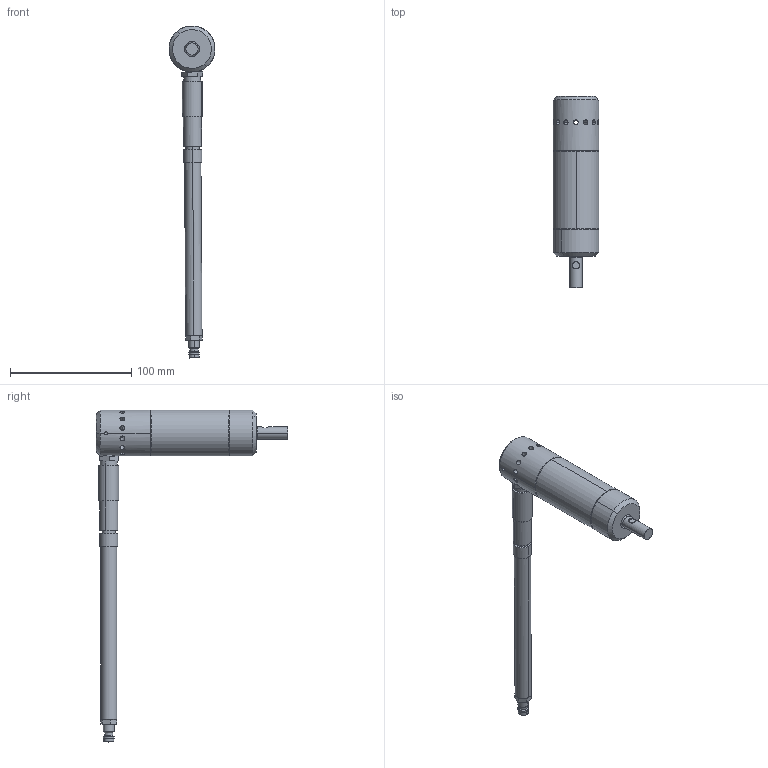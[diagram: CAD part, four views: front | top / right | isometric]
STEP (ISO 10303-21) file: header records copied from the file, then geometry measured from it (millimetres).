
FILE_DESCRIPTION (( 'STEP AP214' ), '1' );
FILE_NAME ('PLR11.STEP', '2018-11-30T13:12:35', ( '' ), ( '' ), 'SwSTEP 2.0', 'SolidWorks 2018', '' );
FILE_SCHEMA (( 'AUTOMOTIVE_DESIGN' ));
Length unit declared in the file: millimetre
Products named in the file (11): Kopie von Deckel PLR 11^PLR11; Kopie von Stator PLR 11^PLR11; Kopie von Rotor PLR 11^PLR11; Kopie von Motorblock PLR 11^PLR11; PLR11; Halterohr Standart; Rändelschraube; Schnellkupplung; Halterohr; Kopie von Distanzring PLR 11^PLR11; Kopie von Verschluss PLR 11^PLR11
Assembly tree (10 placements, depth 3):
  PLR11
    Kopie von Motorblock PLR 11^PLR11
    Kopie von Rotor PLR 11^PLR11
    Kopie von Stator PLR 11^PLR11
    Kopie von Deckel PLR 11^PLR11
    Kopie von Verschluss PLR 11^PLR11
    Kopie von Distanzring PLR 11^PLR11
    Halterohr Standart
      Halterohr
      Schnellkupplung
      Rändelschraube
Bounding box: 38 x 158 x 274.27 mm (x, y, z)
Volume: 165483.3 mm3; surface area: 70199.1 mm2
Topology: 9 solids, 9 shells, 215 faces, 461 edges, 285 vertices
Faces by surface type: cylinder 130, plane 65, cone 18, torus 2
Entity records: 7385 total; most frequent: CARTESIAN_POINT 1999, DIRECTION 1065, ORIENTED_EDGE 918, EDGE_CURVE 459, AXIS2_PLACEMENT_3D 441, VERTEX_POINT 285, EDGE_LOOP 274, ADVANCED_FACE 215
